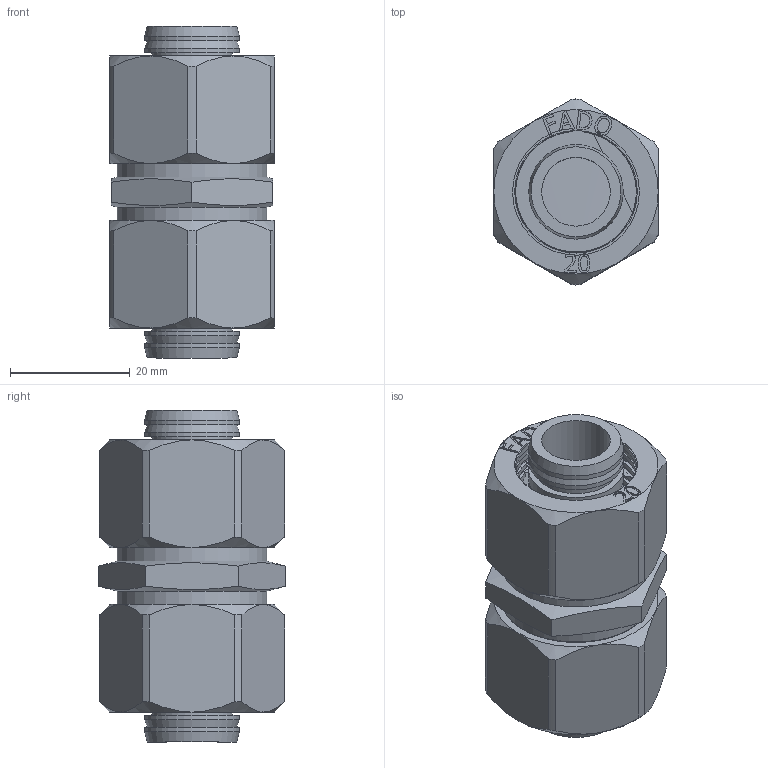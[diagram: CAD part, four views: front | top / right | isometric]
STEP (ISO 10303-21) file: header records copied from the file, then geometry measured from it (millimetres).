
FILE_DESCRIPTION(/* description */ (''),/* implementation_level */ '2;1');
FILE_NAME(/* name */ 'C:\Users\Doom\Desktop\Фадотех\Обжим\RFM03 20 30.03.2020\RFM03 20 30.03.2020.stp',/* time_stamp */ '2022-06-01T19:48:44+03:00',/* author */ ('Doom'),/* organization */ (''),/* preprocessor_version */ 'ST-DEVELOPER v18',/* originating_system */ 'Autodesk Inventor 2020',/* authorisation */ '');
FILE_SCHEMA (('AUTOMOTIVE_DESIGN { 1 0 10303 214 3 1 1 }'));
Length unit declared in the file: millimetre
Products named in the file (5): RFM03 20 30.03.2020; RFM03 20 30.03.2020_1; FADO MC Nut-20 15.02.2020; FADO MC Socket-20 15.02.2020; Olive 20 15.02.2020
Assembly tree (7 placements, depth 2):
  RFM03 20 30.03.2020
    RFM03 20 30.03.2020_1
    FADO MC Nut-20 15.02.2020  x2
    FADO MC Socket-20 15.02.2020  x2
    Olive 20 15.02.2020  x2
Bounding box: 27.5 x 31.18 x 55.5 mm (x, y, z)
Volume: 21333.3 mm3; surface area: 30813.7 mm2
Topology: 11 solids, 11 shells, 972 faces, 2649 edges, 1778 vertices
Faces by surface type: bspline 504, plane 261, cylinder 152, cone 51, torus 4
Full cylindrical faces by diameter (mm): 11.5 x2, 13.531 x4, 14.5 x2, 15.802 x10, 17.391 x2, 17.5 x2, 18 x1, 18.713 x1, 20.196 x1, 20.5 x2, 22.776 x16, 23 x2, 23.517 x4, 24.1 x2, 25 x23
Entity records: 34179 total; most frequent: CARTESIAN_POINT 22641, ORIENTED_EDGE 2810, DIRECTION 1585, EDGE_CURVE 1405, VERTEX_POINT 944, B_SPLINE_CURVE_WITH_KNOTS 591, EDGE_LOOP 573, AXIS2_PLACEMENT_3D 539
